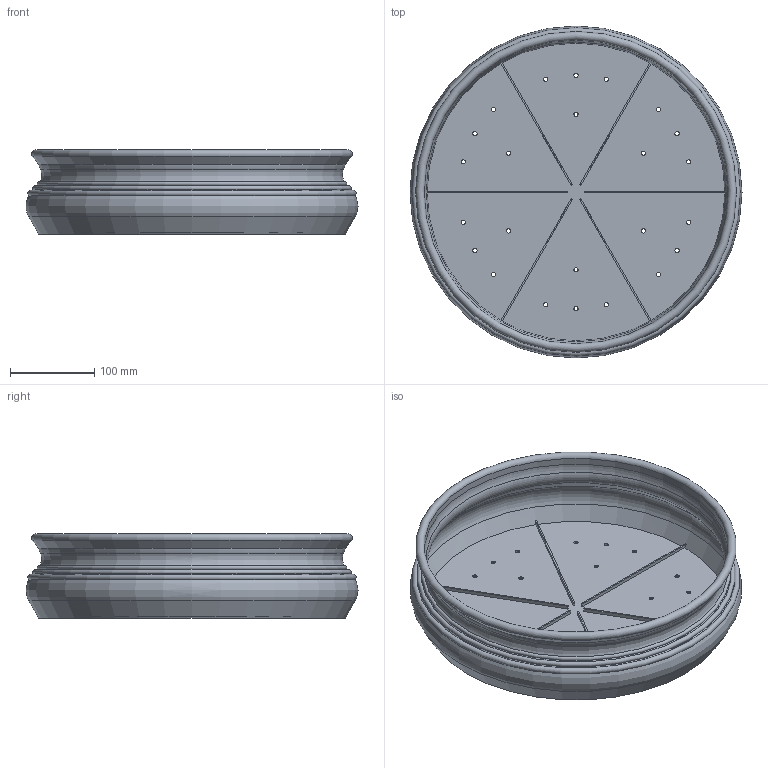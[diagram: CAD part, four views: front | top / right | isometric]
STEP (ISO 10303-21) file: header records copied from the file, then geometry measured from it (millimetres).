
FILE_DESCRIPTION(/* description */ (''),/* implementation_level */ '2;1');
FILE_NAME(/* name */ 'LR2406-S17-H100-D400_step.step',/* time_stamp */ '2024-02-01T11:04:01+01:00',/* author */ (''),/* organization */ (''),/* preprocessor_version */ 'ST-DEVELOPER v20',/* originating_system */ 'Autodesk Translation Framework v12.20.1.177',/* authorisation */ '');
FILE_SCHEMA (('AUTOMOTIVE_DESIGN { 1 0 10303 214 3 1 1 }'));
Length unit declared in the file: millimetre
Products named in the file (1): LR2406-S17-H100-D400
Bounding box: 394.72 x 394.72 x 100 mm (x, y, z)
Volume: 594119.2 mm3; surface area: 491070.4 mm2
Topology: 1 solids, 1 shells, 67 faces, 179 edges, 114 vertices
Faces by surface type: cylinder 31, plane 20, torus 10, cone 6
Full cylindrical faces by diameter (mm): 5 x24, 361.36 x1
Entity records: 2261 total; most frequent: DIRECTION 415, CARTESIAN_POINT 361, ORIENTED_EDGE 358, EDGE_CURVE 179, AXIS2_PLACEMENT_3D 168, EDGE_LOOP 115, VERTEX_POINT 114, CIRCLE 100
